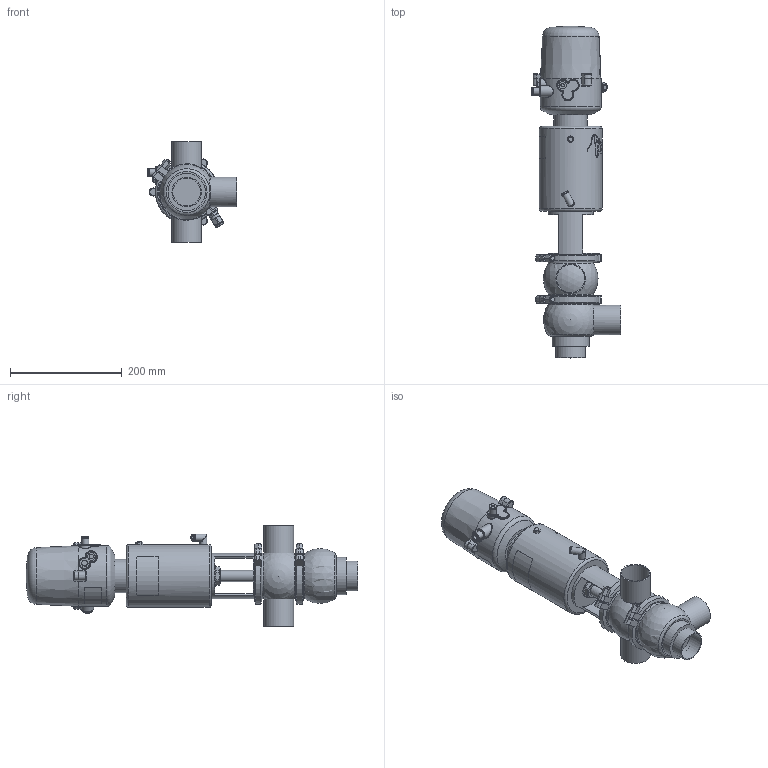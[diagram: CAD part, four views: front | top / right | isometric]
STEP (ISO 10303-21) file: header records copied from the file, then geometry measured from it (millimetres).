
FILE_DESCRIPTION (( 'STEP AP214' ), '1' );
FILE_NAME ('INNOVA K E W DIN 050 T2 AS NC & C-TOP S_10.240.16.0076.STEP', '2024-08-06T09:16:54', ( '' ), ( '' ), 'SwSTEP 2.0', 'SolidWorks 2023', '' );
FILE_SCHEMA (( 'AUTOMOTIVE_DESIGN' ));
Length unit declared in the file: millimetre
Products named in the file (8): 10.426.15.0001_C-TOP S - 1 EV; 10.240.15.0007_DIN 050; 10.240.15.0017_Estàndard; 10.240.15.0014_T2 AS P0; 10.240.15.0010_DN 050; 10.240.15.0001_DN 050; INNOVA K E W DIN 050 T2 AS NC & C-TOP S_10.240.16.0076; 10.240.15.0002_DIN 050
Assembly tree (8 placements, depth 2):
  INNOVA K E W DIN 050 T2 AS NC & C-TOP S_10.240.16.0076
    10.240.15.0007_DIN 050
    10.240.15.0002_DIN 050
    10.240.15.0010_DN 050
    10.240.15.0014_T2 AS P0
    10.240.15.0017_Estàndard
    10.426.15.0001_C-TOP S - 1 EV
    10.240.15.0001_DN 050  x2
Bounding box: 161 x 595 x 180 mm (x, y, z)
Volume: 4163724.2 mm3; surface area: 370798.7 mm2
Topology: 8 solids, 8 shells, 1176 faces, 2836 edges, 1888 vertices
Faces by surface type: plane 411, cylinder 358, cone 201, bspline 160, torus 37, sphere 9
Full cylindrical faces by diameter (mm): 0.371 x17, 0.512 x16, 0.658 x16, 0.795 x16, 0.94 x15, 1.098 x15, 1.241 x13, 1.382 x13, 1.523 x11, 1.669 x10, 2.201 x1, 4 x2, 5.5 x2, 6 x2, 6.15 x1, 8 x6, 8.5 x1, 10 x1, 10.5 x1, 11 x2, 12.5 x3, 13 x2, 13.5 x2, 16 x1, 17 x3, 20 x3, 20.5 x1, 22 x2, 31 x1, 34.5 x3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
Entity records: 58120 total; most frequent: CARTESIAN_POINT 27855, ORIENTED_EDGE 4518, DIRECTION 3663, EDGE_CURVE 2259, VERTEX_POINT 1609, EDGE_LOOP 1578, AXIS2_PLACEMENT_3D 1503, FACE_OUTER_BOUND 1337
